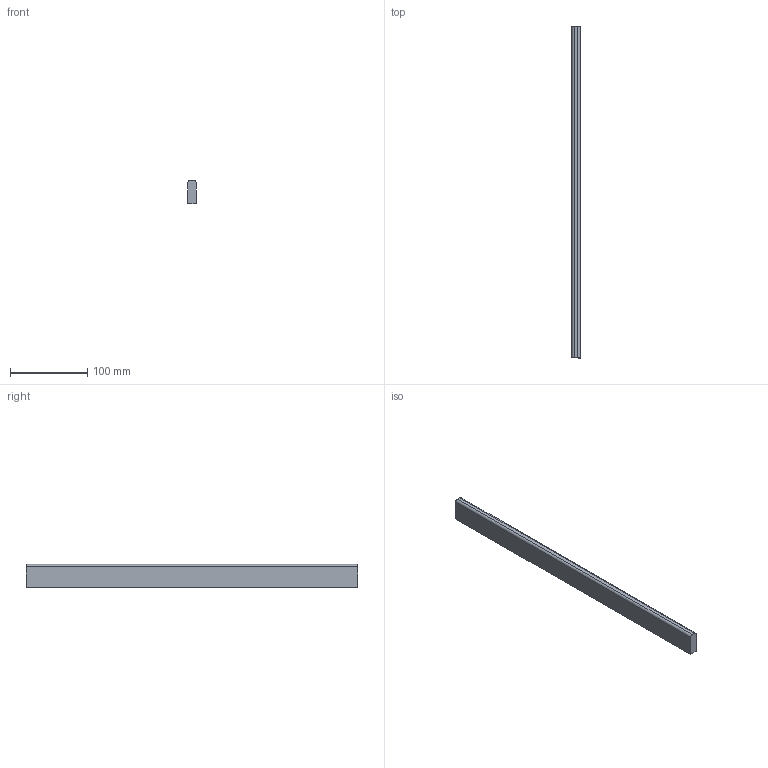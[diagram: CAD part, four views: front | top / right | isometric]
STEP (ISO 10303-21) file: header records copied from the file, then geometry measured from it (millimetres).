
FILE_DESCRIPTION (( 'STEP AP214' ), '1' );
FILE_NAME ('_Seitenreling_SP60701200_RL430.step', '2010-09-06T14:51:40', ( 'grass' ), ( '' ), 'SwSTEP 2.0', 'SolidWorks 2010', '' );
FILE_SCHEMA (( 'AUTOMOTIVE_DESIGN' ));
Length unit declared in the file: millimetre
Products named in the file (1): _Seitenreling_SP60701200_RL430
Bounding box: 10.5 x 430 x 30 mm (x, y, z)
Volume: 133789 mm3; surface area: 34344.9 mm2
Topology: 1 solids, 1 shells, 8 faces, 18 edges, 12 vertices
Faces by surface type: plane 6, cylinder 2
Entity records: 260 total; most frequent: DIRECTION 40, CARTESIAN_POINT 39, ORIENTED_EDGE 36, EDGE_CURVE 18, VECTOR 14, LINE 14, AXIS2_PLACEMENT_3D 13, VERTEX_POINT 12
